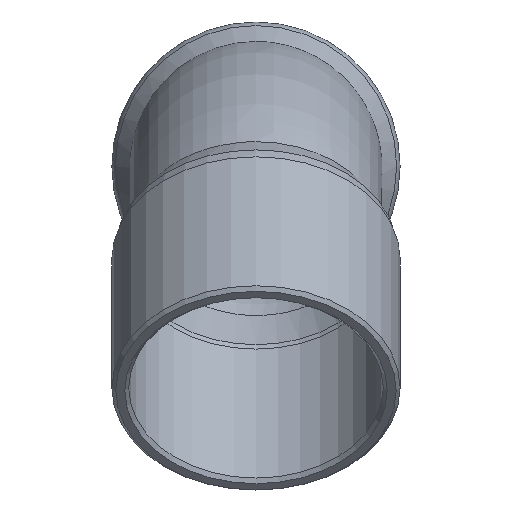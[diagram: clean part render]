
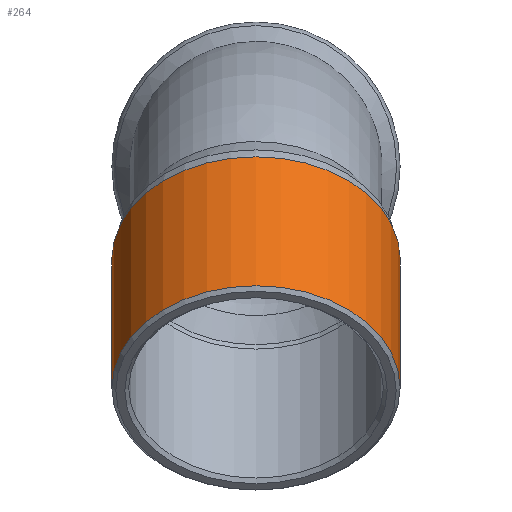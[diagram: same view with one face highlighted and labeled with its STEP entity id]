
A CAD part, top view. The second image highlights one B-rep face of the part: STEP entity #264.
In plain terms, the highlighted free-form (B-spline) face has degree [1, 2] with [2, 9] control points.
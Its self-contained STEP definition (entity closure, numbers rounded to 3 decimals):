
#192=CARTESIAN_POINT('',(0.,9.235,22.67));
#193=VERTEX_POINT('',#192);
#194=CARTESIAN_POINT('',(0.0,4.101,17.536));
#195=DIRECTION('',(0.0,-0.707,0.707));
#196=DIRECTION('',(0.0,-0.707,-0.707));
#197=AXIS2_PLACEMENT_3D('',#194,#195,#196);
#198=CIRCLE('',#197,7.26);
#199=EDGE_CURVE('',#193,#193,#198,.T.);
#224=CARTESIAN_POINT('',(0.,10.607,0.764));
#225=CARTESIAN_POINT('',(0.,-6.166,17.536));
#226=CARTESIAN_POINT('',(-7.26,10.607,0.764));
#227=CARTESIAN_POINT('',(-7.26,-6.166,17.536));
#228=CARTESIAN_POINT('',(-7.26,15.74,5.897));
#229=CARTESIAN_POINT('',(-7.26,-1.032,22.67));
#230=CARTESIAN_POINT('',(-7.26,20.874,11.031));
#231=CARTESIAN_POINT('',(-7.26,4.101,27.803));
#232=CARTESIAN_POINT('',(0.,20.874,11.031));
#233=CARTESIAN_POINT('',(0.,4.101,27.803));
#234=CARTESIAN_POINT('',(7.26,20.874,11.031));
#235=CARTESIAN_POINT('',(7.26,4.101,27.803));
#236=CARTESIAN_POINT('',(7.26,15.74,5.897));
#237=CARTESIAN_POINT('',(7.26,-1.032,22.67));
#238=CARTESIAN_POINT('',(7.26,10.607,0.764));
#239=CARTESIAN_POINT('',(7.26,-6.166,17.536));
#240=CARTESIAN_POINT('',(0.,10.607,0.764));
#241=CARTESIAN_POINT('',(0.,-6.166,17.536));
#249=(BOUNDED_SURFACE()B_SPLINE_SURFACE(1,2,((#224,#226,#228,#230,#232,#234,#236,#238,#240),(#225,#227,#229,#231,#233,#235,#237,#239,#241)),.UNSPECIFIED.,.F.,.T.,.U.)B_SPLINE_SURFACE_WITH_KNOTS((2,2),(3,2,2,2,3),(-1.647,1.62),(0.0,11.404,22.808,34.212,45.616),.UNSPECIFIED.)GEOMETRIC_REPRESENTATION_ITEM()RATIONAL_B_SPLINE_SURFACE(((1.0,0.707,1.0,0.707,1.0,0.707,1.0,0.707,1.0),(1.0,0.707,1.0,0.707,1.0,0.707,1.0,0.707,1.0)))REPRESENTATION_ITEM('')SURFACE());
#250=CARTESIAN_POINT('',(0.0,15.74,16.164));
#251=VERTEX_POINT('',#250);
#252=CARTESIAN_POINT('',(0.0,10.607,11.031));
#253=DIRECTION('',(0.0,0.707,-0.707));
#254=DIRECTION('',(0.0,0.707,0.707));
#255=AXIS2_PLACEMENT_3D('',#252,#253,#254);
#256=CIRCLE('',#255,7.26);
#257=EDGE_CURVE('',#251,#251,#256,.T.);
#258=ORIENTED_EDGE('',*,*,#257,.F.);
#259=EDGE_LOOP('',(#258));
#260=FACE_OUTER_BOUND('',#259,.T.);
#261=ORIENTED_EDGE('',*,*,#199,.F.);
#262=EDGE_LOOP('',(#261));
#263=FACE_BOUND('',#262,.T.);
#264=ADVANCED_FACE('',(#260,#263),#249,.T.);
